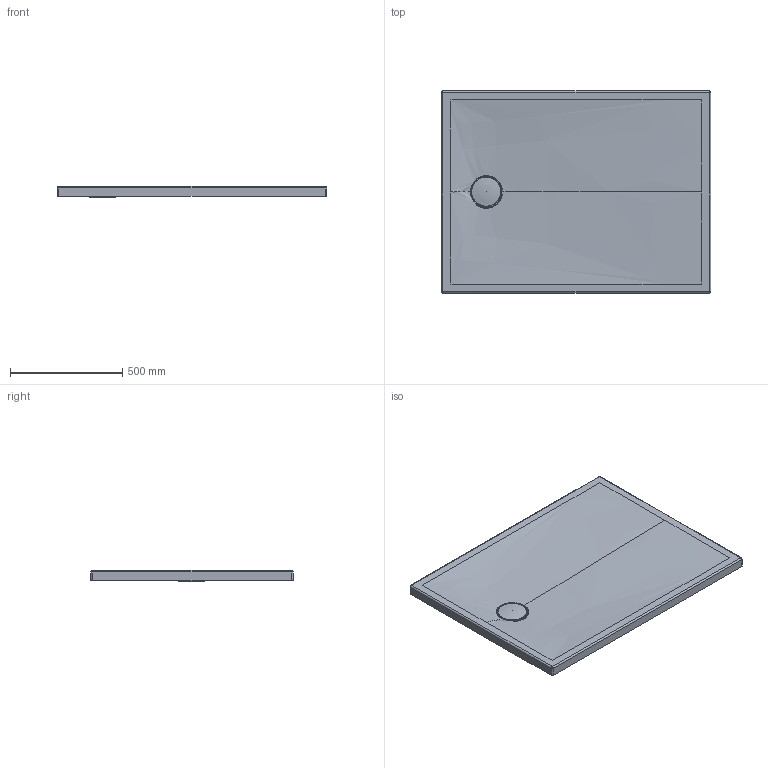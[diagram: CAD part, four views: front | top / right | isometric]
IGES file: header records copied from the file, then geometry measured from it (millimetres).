
Global section: file name: D:\01_Planungsdaten\_news19\W&W\Tempano\720198\3D\720198.igs; native system: Rhinoceros ( Sep 13 2016 ); preprocessor: Trout Lake IGES 012 Sep 13 2016; date: 190304.155948; units: millimetre
Bounding box: 1200 x 900 x 50.16 mm (x, y, z)
Surface area: 1312046 mm2 (no closed solid volume)
Topology: 0 solids, 0 shells, 42 faces, 306 edges, 301 vertices
Faces by surface type: bspline 42
